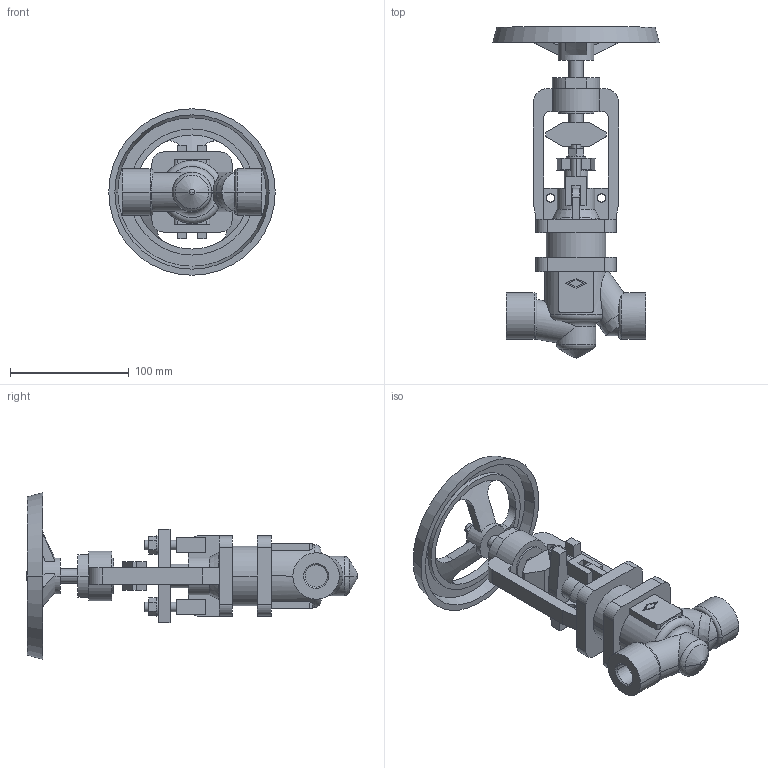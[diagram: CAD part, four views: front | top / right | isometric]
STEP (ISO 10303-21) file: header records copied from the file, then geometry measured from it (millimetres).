
FILE_DESCRIPTION(('OneSpaceDesigner STEP Export'),'2;1');
FILE_NAME('c000004259.stp','2010-05-04T11:08:15',(''),(''),'OneSpace Designer STEP processor for AP214 (Solid Model)','OneSpace Modeling 15.50B 03-Nov-2007 (C) CoCreate Software GmbH','');
FILE_SCHEMA(('AUTOMOTIVE_DESIGN { 1 0 10303 214 1 1 1 1 }'));
Length unit declared in the file: millimetre
Products named in the file (1): 1
Bounding box: 140 x 279.13 x 140 mm (x, y, z)
Volume: 576767.2 mm3; surface area: 118857.5 mm2
Topology: 1 solids, 1 shells, 287 faces, 745 edges, 482 vertices
Faces by surface type: plane 152, cylinder 91, cone 28, torus 14, sphere 2
Entity records: 11072 total; most frequent: CARTESIAN_POINT 2094, ORIENTED_EDGE 1490, DIRECTION 1255, EDGE_CURVE 745, VERTEX_POINT 482, VECTOR 435, LINE 435, AXIS2_PLACEMENT_3D 410
